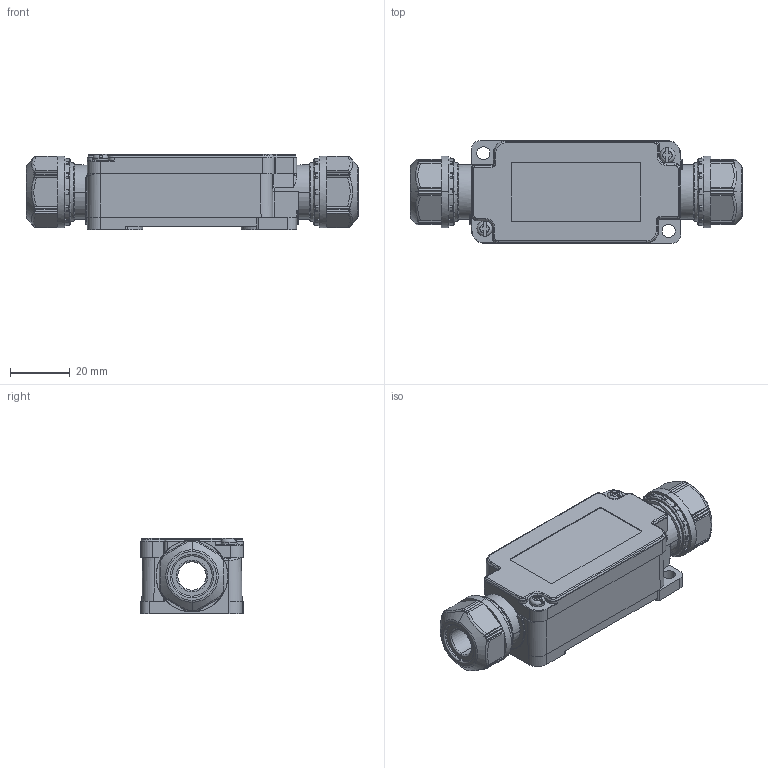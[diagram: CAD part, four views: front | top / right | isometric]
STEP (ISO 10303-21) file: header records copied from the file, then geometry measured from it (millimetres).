
FILE_DESCRIPTION(('Creo Elements/Direct Modeling STEP Export'),'2;1');
FILE_NAME('H19-0011-CL901-00_JB-WSB034070.stp','2019-12-25T11:15:38',(''),(''),'Creo Elements/Direct Modeling STEP processor for AP214 (Solid Model)','Creo Elements/Direct Modeling 20.0C 26-Jan-2018 (C) Parametric Technology GmbH','');
FILE_SCHEMA(('AUTOMOTIVE_DESIGN { 1 0 10303 214 1 1 1 1 }'));
Length unit declared in the file: millimetre
Products named in the file (7): JB-W3※※_フタ固定ねじ; JB-WST304_フタ; JB-WSB034070_フタ部; JB-WSB034070_本体; OA-W1609_ゴムブッシュ; JB-WSB034070_本体部; H19-0011-CL901-00_JB-WSB034070
Assembly tree (8 placements, depth 3):
  H19-0011-CL901-00_JB-WSB034070
    JB-WSB034070_本体部
      OA-W1609_ゴムブッシュ  x2
      JB-WSB034070_本体
    JB-WSB034070_フタ部
      JB-WST304_フタ
      JB-W3※※_フタ固定ねじ  x2
Bounding box: 111.06 x 34.4 x 25.1 mm (x, y, z)
Volume: 36692 mm3; surface area: 28320.3 mm2
Topology: 6 solids, 6 shells, 1309 faces, 3283 edges, 1963 vertices
Faces by surface type: plane 503, cylinder 494, torus 136, bspline 84, sphere 48, cone 44
Entity records: 44211 total; most frequent: CARTESIAN_POINT 15047, ORIENTED_EDGE 6246, DIRECTION 5898, EDGE_CURVE 3123, AXIS2_PLACEMENT_3D 2208, VERTEX_POINT 1891, VECTOR 1482, LINE 1482
